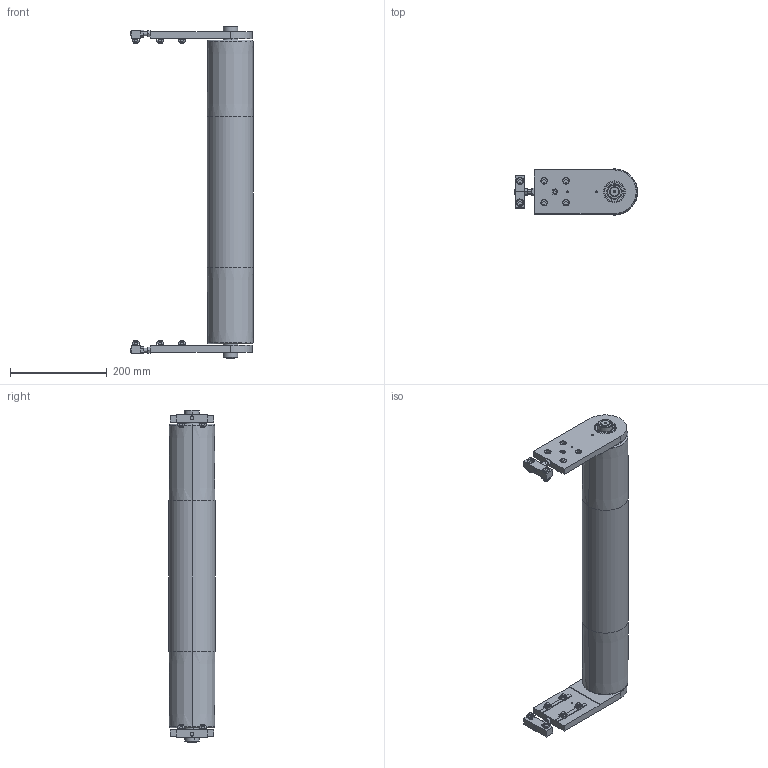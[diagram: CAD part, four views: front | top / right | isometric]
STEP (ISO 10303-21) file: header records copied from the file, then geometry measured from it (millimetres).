
FILE_DESCRIPTION (( 'STEP AP203' ), '1' );
FILE_NAME ('084.095.KIC.600.STEP', '2019-07-30T07:53:32', ( '' ), ( '' ), 'SwSTEP 2.0', 'SolidWorks 2018', '' );
FILE_SCHEMA (( 'CONFIG_CONTROL_DESIGN' ));
Length unit declared in the file: millimetre
Products named in the file (10): 084.803.003; 084.095.KIC.600; 084.816.110_084.816.110<A macchina>; 084.301.000 VITI ALUSIC_084.301.003; 084.302.000 DADI ALUSIC 13x13_084.302.004; 084.810.003; 084.808.006_084.808.002; 084.802.019_084.802.019; 084.812.003; circlip for shafts normal_din_PreviewCfg
Assembly tree (37 placements, depth 2):
  084.095.KIC.600
    084.301.000 VITI ALUSIC_084.301.003  x12
    084.302.000 DADI ALUSIC 13x13_084.302.004  x12
    084.816.110_084.816.110<A macchina>
    084.812.003  x2
    084.808.006_084.808.002  x2
    084.810.003  x2
    084.802.019_084.802.019  x2
    084.803.003  x2
    circlip for shafts normal_din_PreviewCfg  x2
Bounding box: 253.5 x 95 x 685 mm (x, y, z)
Volume: 1837654 mm3; surface area: 819932.8 mm2
Topology: 43 solids, 45 shells, 994 faces, 2448 edges, 1592 vertices
Faces by surface type: plane 467, cylinder 311, torus 92, cone 68, bspline 48, sphere 8
Entity records: 13686 total; most frequent: CARTESIAN_POINT 2516, DIRECTION 2066, ORIENTED_EDGE 1880, EDGE_CURVE 940, AXIS2_PLACEMENT_3D 809, VERTEX_POINT 615, LINE 448, VECTOR 448
